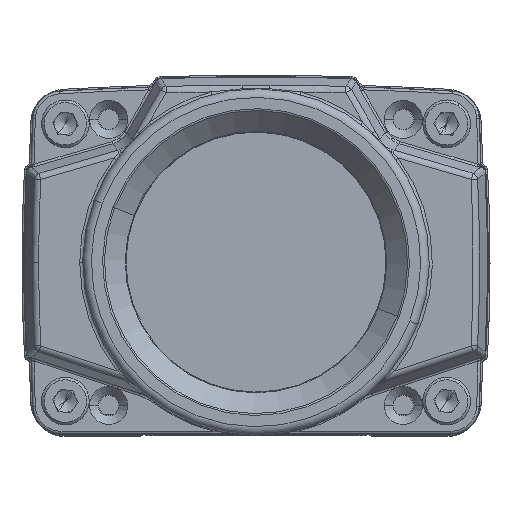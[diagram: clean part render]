
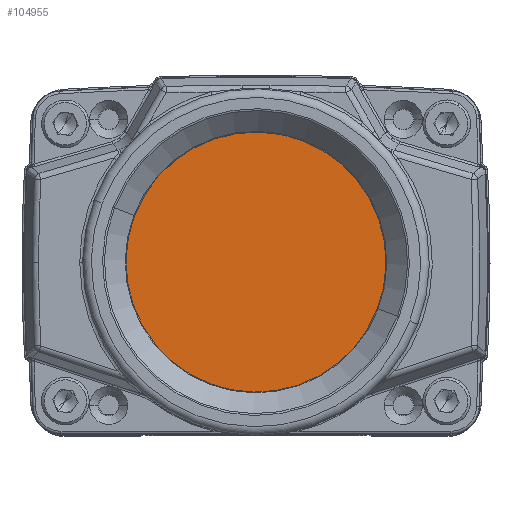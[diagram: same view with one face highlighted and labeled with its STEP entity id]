
A CAD part, top view. The second image highlights one B-rep face of the part: STEP entity #104955.
In plain terms, the highlighted planar face has unit normal (0, 0, 1).
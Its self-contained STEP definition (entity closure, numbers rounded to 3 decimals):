
#9328 = ORIENTED_EDGE ( 'NONE', *, *, #17061, .T. ) ;
#10909 = FACE_OUTER_BOUND ( 'NONE', #86097, .T. ) ;
#17061 = EDGE_CURVE ( 'NONE', #73946, #36654, #108605, .T. ) ;
#17611 = DIRECTION ( 'NONE',  ( 0., 0., 1. ) ) ;
#20984 = EDGE_CURVE ( 'NONE', #36654, #73946, #22836, .T. ) ;
#22836 = CIRCLE ( 'NONE', #77614, 17.05 ) ;
#23586 = CARTESIAN_POINT ( 'NONE',  ( 17.05, 0., 77.1 ) ) ;
#27762 = AXIS2_PLACEMENT_3D ( 'NONE', #75235, #17611, #84864 ) ;
#35676 = DIRECTION ( 'NONE',  ( 1., 0., 0. ) ) ;
#35697 = DIRECTION ( 'NONE',  ( 0., 0., 1. ) ) ;
#35800 = CARTESIAN_POINT ( 'NONE',  ( 0., 0., 77.1 ) ) ;
#36654 = VERTEX_POINT ( 'NONE', #23586 ) ;
#51442 = DIRECTION ( 'NONE',  ( 0., 0., 1. ) ) ;
#64798 = PLANE ( 'NONE',  #27762 ) ;
#69767 = AXIS2_PLACEMENT_3D ( 'NONE', #86685, #51442, #77616 ) ;
#73946 = VERTEX_POINT ( 'NONE', #108670 ) ;
#75235 = CARTESIAN_POINT ( 'NONE',  ( 0., 0., 77.1 ) ) ;
#77614 = AXIS2_PLACEMENT_3D ( 'NONE', #35800, #35697, #35676 ) ;
#77616 = DIRECTION ( 'NONE',  ( 1., 0., 0. ) ) ;
#84864 = DIRECTION ( 'NONE',  ( 1., 0., 0. ) ) ;
#86097 = EDGE_LOOP ( 'NONE', ( #116715, #9328 ) ) ;
#86685 = CARTESIAN_POINT ( 'NONE',  ( 0., 0., 77.1 ) ) ;
#104955 = ADVANCED_FACE ( 'NONE', ( #10909 ), #64798, .T. ) ;
#108605 = CIRCLE ( 'NONE', #69767, 17.05 ) ;
#108670 = CARTESIAN_POINT ( 'NONE',  ( -17.05, 0., 77.1 ) ) ;
#116715 = ORIENTED_EDGE ( 'NONE', *, *, #20984, .T. ) ;
